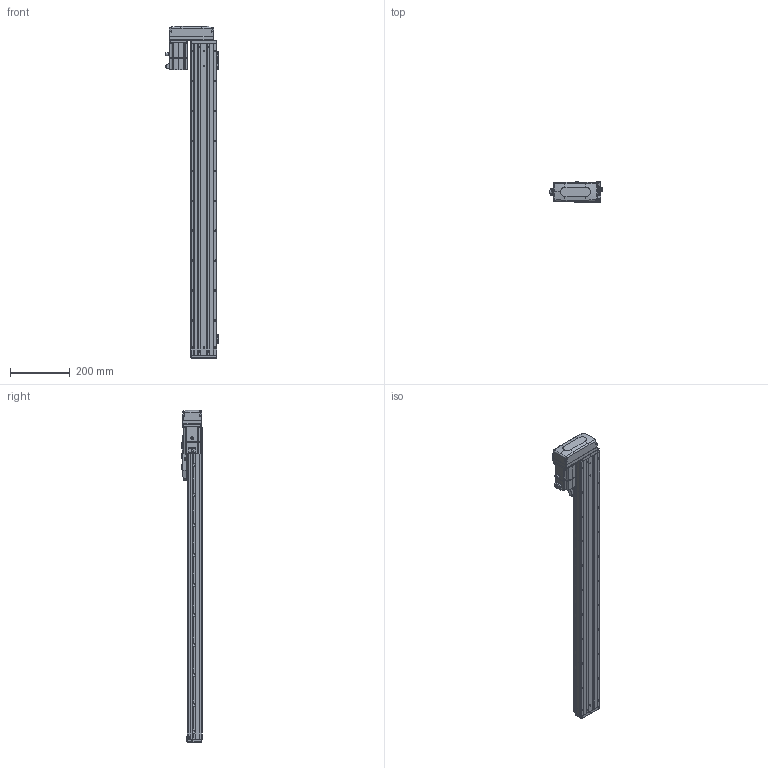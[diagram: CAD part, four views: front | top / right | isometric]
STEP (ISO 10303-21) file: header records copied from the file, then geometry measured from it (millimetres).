
FILE_DESCRIPTION (( 'STEP AP203' ), '1' );
FILE_NAME ('CTHA86-850-BR-M20-C4L.step', '2022-04-26T01:01:30', ( '微软用户' ), ( '微软中国' ), 'SwSTEP 2.0', 'SolidWorks 2020', '' );
FILE_SCHEMA (( 'CONFIG_CONTROL_DESIGN' ));
Length unit declared in the file: millimetre
Products named in the file (21): KTHA86-004; GBT 70.1-M3×20; CTHA86-031; KTHA86-005; GBT 70.3-M3℅6; GBT70.1 M5℅16; CTHA86-030; GB¨uT 70.2-M3¡Á5_M3¡Á6; CTHA86-015-1_CTHA86-015-2; GBT 70.1-M3×16; EE_SX911P_R; CTHA86-033; GBT 70.1-M3℅6; CTHA60-017; CTHA86-850-BR-M20-C4L; CTHA60-016; CTHA60-021; _X2_4E0983F1_X0_200W_1; KTHA86-001_1040; GBT77-2000 M3×3; CTHA86-002
Assembly tree (66 placements, depth 2):
  CTHA86-850-BR-M20-C4L
    KTHA86-001_1040
    KTHA86-004
    KTHA86-005
    GB¨uT 70.2-M3¡Á5_M3¡Á6  x10
    EE_SX911P_R  x3
    CTHA60-017  x3
    CTHA60-021  x2
    GBT77-2000 M3×3  x6
    GBT 70.1-M3×20
    GBT70.1 M5℅16  x14
    GBT 70.1-M3×16  x5
    GBT 70.1-M3℅6  x6
    CTHA60-016  x2
    _X2_4E0983F1_X0_200W_1
    CTHA86-002
    CTHA86-031
    CTHA86-030  x2
    GBT 70.3-M3℅6  x4
    CTHA86-015-1_CTHA86-015-2
    CTHA86-033
Bounding box: 178.52 x 68 x 1109 mm (x, y, z)
Volume: 4191631.4 mm3; surface area: 716205.1 mm2
Topology: 68 solids, 68 shells, 2826 faces, 6764 edges, 4168 vertices
Faces by surface type: plane 1487, cylinder 735, cone 373, torus 132, bspline 75, sphere 24
Entity records: 50373 total; most frequent: CARTESIAN_POINT 9731, DIRECTION 7849, ORIENTED_EDGE 7628, EDGE_CURVE 3814, AXIS2_PLACEMENT_3D 2670, VECTOR 2509, LINE 2509, VERTEX_POINT 2400
